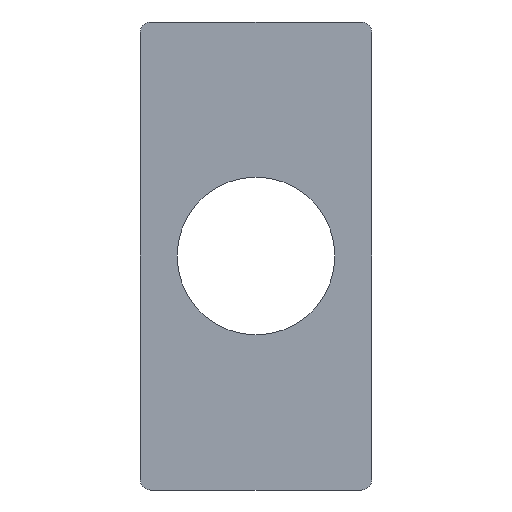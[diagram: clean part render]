
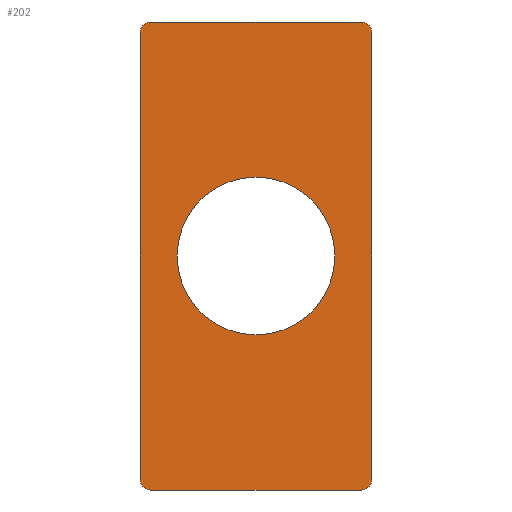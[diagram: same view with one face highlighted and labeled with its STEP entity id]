
A CAD part, front view. The second image highlights one B-rep face of the part: STEP entity #202.
In plain terms, the highlighted planar face has unit normal (0, -1, 0).
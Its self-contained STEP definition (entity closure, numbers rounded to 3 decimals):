
#1=CARTESIAN_POINT('',(0.,0.,0.));
#2=DIRECTION('',(0.,1.,0.));
#3=DIRECTION('',(1.,0.,0.));
#4=AXIS2_PLACEMENT_3D('',#1,#2,#3);
#6=CARTESIAN_POINT('',(0.,0.,0.));
#7=DIRECTION('',(0.,1.,0.));
#8=DIRECTION('',(-1.,0.,0.));
#9=AXIS2_PLACEMENT_3D('',#6,#7,#8);
#11=DIRECTION('',(0.,0.,-1.));
#12=VECTOR('',#11,85.);
#13=CARTESIAN_POINT('',(22.,0.,42.5));
#14=LINE('',#13,#12);
#15=DIRECTION('',(-1.,0.,0.));
#16=VECTOR('',#15,40.);
#17=CARTESIAN_POINT('',(20.,0.,-44.5));
#18=LINE('',#17,#16);
#19=DIRECTION('',(0.,0.,1.));
#20=VECTOR('',#19,85.);
#21=CARTESIAN_POINT('',(-22.,0.,-42.5));
#22=LINE('',#21,#20);
#23=DIRECTION('',(1.,0.,0.));
#24=VECTOR('',#23,40.);
#25=CARTESIAN_POINT('',(-20.,0.,44.5));
#26=LINE('',#25,#24);
#74=CARTESIAN_POINT('',(20.,0.,42.5));
#75=DIRECTION('',(0.,-1.,0.));
#76=DIRECTION('',(1.,0.,0.));
#77=AXIS2_PLACEMENT_3D('',#74,#75,#76);
#92=CARTESIAN_POINT('',(-20.,0.,42.5));
#93=DIRECTION('',(0.,-1.,0.));
#94=DIRECTION('',(0.,0.,1.));
#95=AXIS2_PLACEMENT_3D('',#92,#93,#94);
#110=CARTESIAN_POINT('',(-20.,0.,-42.5));
#111=DIRECTION('',(0.,-1.,0.));
#112=DIRECTION('',(-1.,0.,0.));
#113=AXIS2_PLACEMENT_3D('',#110,#111,#112);
#128=CARTESIAN_POINT('',(20.,0.,-42.5));
#129=DIRECTION('',(0.,-1.,0.));
#130=DIRECTION('',(0.,0.,-1.));
#131=AXIS2_PLACEMENT_3D('',#128,#129,#130);
#133=CARTESIAN_POINT('',(15.,0.,0.));
#134=CARTESIAN_POINT('',(-15.,0.,0.));
#135=VERTEX_POINT('',#133);
#136=VERTEX_POINT('',#134);
#142=CARTESIAN_POINT('',(20.,0.,44.5));
#144=VERTEX_POINT('',#142);
#147=CARTESIAN_POINT('',(22.,0.,42.5));
#148=VERTEX_POINT('',#147);
#150=CARTESIAN_POINT('',(-22.,0.,42.5));
#152=VERTEX_POINT('',#150);
#155=CARTESIAN_POINT('',(-20.,0.,44.5));
#156=VERTEX_POINT('',#155);
#158=CARTESIAN_POINT('',(-20.,0.,-44.5));
#160=VERTEX_POINT('',#158);
#163=CARTESIAN_POINT('',(-22.,0.,-42.5));
#164=VERTEX_POINT('',#163);
#166=CARTESIAN_POINT('',(22.,0.,-42.5));
#168=VERTEX_POINT('',#166);
#171=CARTESIAN_POINT('',(20.,0.,-44.5));
#172=VERTEX_POINT('',#171);
#173=CARTESIAN_POINT('',(0.,0.,0.));
#174=DIRECTION('',(0.,1.,0.));
#175=DIRECTION('',(1.,0.,0.));
#176=AXIS2_PLACEMENT_3D('',#173,#174,#175);
#177=PLANE('',#176);
#179=ORIENTED_EDGE('',*,*,#178,.F.);
#181=ORIENTED_EDGE('',*,*,#180,.T.);
#183=ORIENTED_EDGE('',*,*,#182,.F.);
#185=ORIENTED_EDGE('',*,*,#184,.T.);
#187=ORIENTED_EDGE('',*,*,#186,.F.);
#189=ORIENTED_EDGE('',*,*,#188,.T.);
#191=ORIENTED_EDGE('',*,*,#190,.F.);
#193=ORIENTED_EDGE('',*,*,#192,.T.);
#194=EDGE_LOOP('',(#179,#181,#183,#185,#187,#189,#191,#193));
#195=FACE_OUTER_BOUND('',#194,.F.);
#197=ORIENTED_EDGE('',*,*,#196,.F.);
#199=ORIENTED_EDGE('',*,*,#198,.F.);
#200=EDGE_LOOP('',(#197,#199));
#201=FACE_BOUND('',#200,.F.);
#202=ADVANCED_FACE('',(#195,#201),#177,.F.);
#5=CIRCLE('',#4,15.);
#10=CIRCLE('',#9,15.);
#78=CIRCLE('',#77,2.);
#96=CIRCLE('',#95,2.);
#114=CIRCLE('',#113,2.);
#132=CIRCLE('',#131,2.);
#178=EDGE_CURVE('',#148,#144,#78,.T.);
#180=EDGE_CURVE('',#148,#168,#14,.T.);
#182=EDGE_CURVE('',#172,#168,#132,.T.);
#184=EDGE_CURVE('',#172,#160,#18,.T.);
#186=EDGE_CURVE('',#164,#160,#114,.T.);
#188=EDGE_CURVE('',#164,#152,#22,.T.);
#190=EDGE_CURVE('',#156,#152,#96,.T.);
#192=EDGE_CURVE('',#156,#144,#26,.T.);
#196=EDGE_CURVE('',#135,#136,#5,.T.);
#198=EDGE_CURVE('',#136,#135,#10,.T.);
